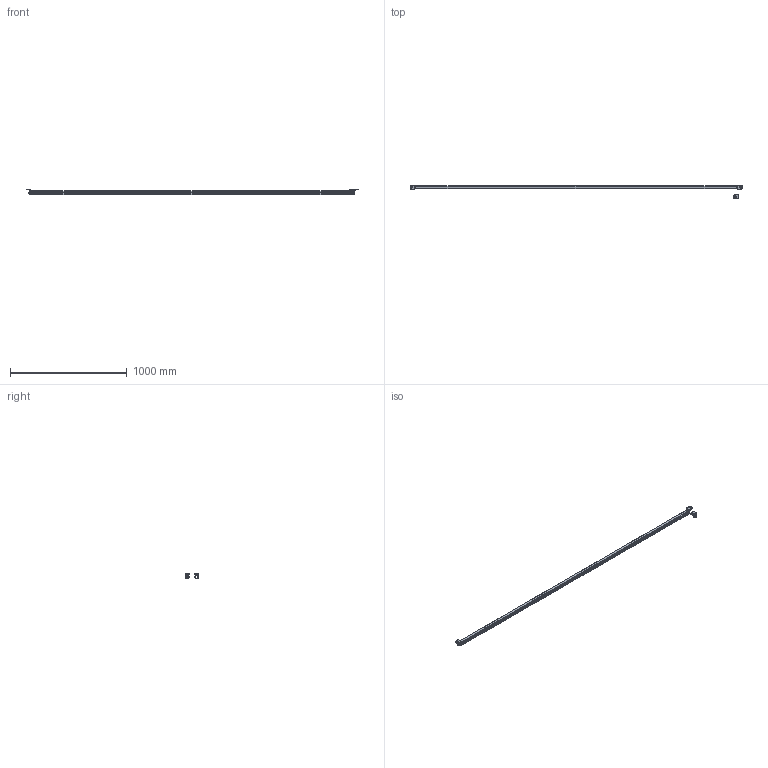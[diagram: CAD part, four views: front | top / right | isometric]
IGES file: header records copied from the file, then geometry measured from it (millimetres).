
Global section: file name: M:\acadjob\SOLID-2\DXF-IGES-Geräte-Daten für Kunden\IGES\Solid_2700.igs; native system: AutoCAD-15.05s (LMS Tech) (Microsoft Windows NT Version 5.1 (x86)); preprocessor: Autodesk IGES Translator R2000i (Jul 31 2000) from Autodesk, Inc.; date: 20070306.152741; units: millimetre
Bounding box: 2839.97 x 115.8 x 51.28 mm (x, y, z)
Surface area: 542204.5 mm2 (no closed solid volume)
Topology: 0 solids, 0 shells, 230 faces, 5800 edges, 5800 vertices
Faces by surface type: bspline 230
